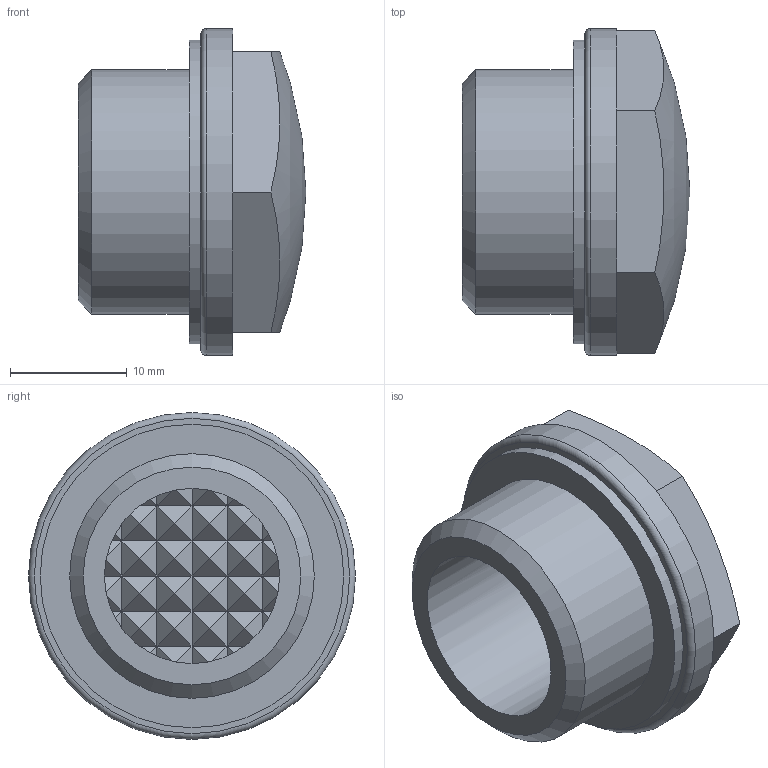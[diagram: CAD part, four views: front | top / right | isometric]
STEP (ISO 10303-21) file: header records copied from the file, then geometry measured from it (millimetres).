
FILE_DESCRIPTION( ( 'STEP AP203' ), '1' );
FILE_NAME( 'C:/Temp/Ganter_Step_05_03_2020/data/3_5/gn541_3/Prismatic-Oil level sight glass GN 541.3-15-G1_2.stp', '2020-03-12T13:43:45', ( 'License CC BY-ND 4.0' ), ( 'CADENAS' ), ' ', 'PARTsolutions', ' ' );
FILE_SCHEMA( ( 'CONFIG_CONTROL_DESIGN' ) );
Length unit declared in the file: millimetre
Products named in the file (1): _Prismatic-Oil level sight glass GN 541.3-15-G1/2
Bounding box: 19.5 x 28 x 28 mm (x, y, z)
Volume: 5393.3 mm3; surface area: 3202 mm2
Topology: 1 solids, 1 shells, 121 faces, 223 edges, 107 vertices
Faces by surface type: plane 114, cylinder 4, torus 1, cone 1, sphere 1
Full cylindrical faces by diameter (mm): 15 x1, 20.955 x1, 26 x1, 28 x1
Entity records: 2824 total; most frequent: DIRECTION 522, CARTESIAN_POINT 444, ORIENTED_EDGE 430, EDGE_CURVE 215, AXIS2_PLACEMENT_3D 185, LINE 152, VECTOR 152, EDGE_LOOP 131
